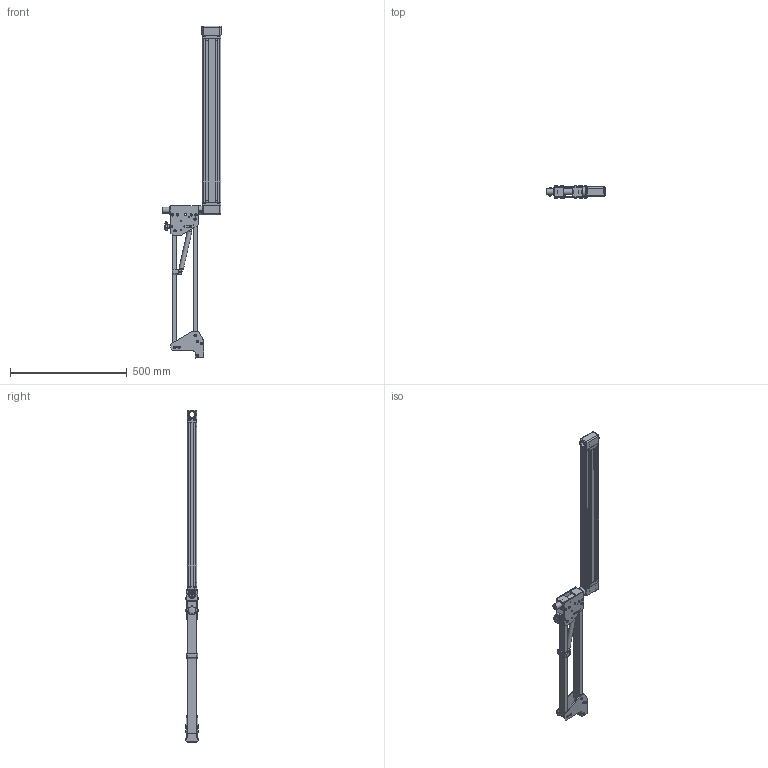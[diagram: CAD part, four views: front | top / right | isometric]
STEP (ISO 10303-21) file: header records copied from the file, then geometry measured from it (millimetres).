
FILE_DESCRIPTION(('STEP AP203'),'1');
FILE_NAME('PS-75-1200-01-05Boolean.stp','2019-01-02T09:54:17',(' '),(' '),'Spatial InterOp 3D',' ',' ');
FILE_SCHEMA(('CONFIG_CONTROL_DESIGN'));
Length unit declared in the file: millimetre
Products named in the file (18): PS-75-1200-01-05Boolean; STR-25; 2330002; 1052; SA-P1-0634; MC6S 4x12; K6S_6X12; GSP-1-P; GSP-1; 1302; M6M M8 LOCKING; MUTTERL_S; M6M-NYLOCK M8
Assembly tree (17 placements, depth 4):
  PS-75-1200-01-05Boolean
    STR-25
    2330002
    2330002
    2330002
    2330002
    1052
    SA-P1-0634
      MC6S 4x12
      K6S_6X12
      K6S_6X12
      GSP-1-P
      GSP-1
      1302
      1302
      M6M M8 LOCKING
        MUTTERL_S
        M6M-NYLOCK M8
Bounding box: 251.5 x 54 x 1424 mm (x, y, z)
Volume: 1669753.9 mm3; surface area: 994892.2 mm2
Topology: 16 solids, 75 shells, 1692 faces, 3963 edges, 2536 vertices
Faces by surface type: plane 935, cylinder 418, cone 186, torus 91, bspline 39, sphere 23
Full cylindrical faces by diameter (mm): 3.242 x8, 4 x4, 4.134 x1, 4.2 x5, 4.917 x17, 5 x2, 5.3 x1, 5.5 x4, 6 x51, 6.05 x2, 6.25 x4, 6.5 x36, 6.647 x2, 7 x4, 7.5 x4, 8 x60, 8.02 x4, 8.376 x1, 8.5 x9, 9 x6, 10 x42, 13 x2, 14 x2, 15 x8, 16 x9, 18 x2, 19 x1, 24.873 x1, 25 x7, 28 x7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
Entity records: 47703 total; most frequent: CARTESIAN_POINT 11478, DIRECTION 7388, ORIENTED_EDGE 6268, EDGE_CURVE 3134, AXIS2_PLACEMENT_3D 2813, EDGE_LOOP 2555, VERTEX_POINT 2311, FACE_OUTER_BOUND 2091
